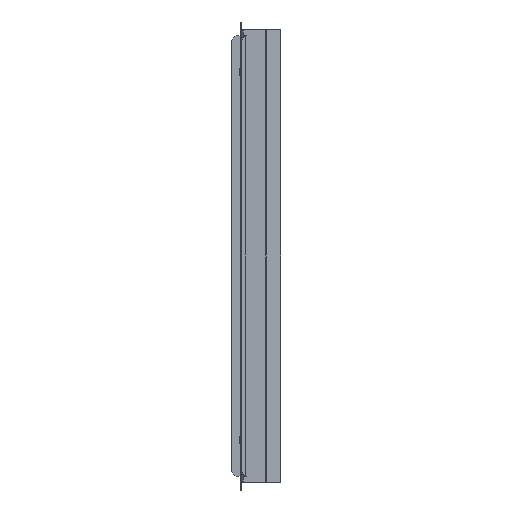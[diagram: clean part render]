
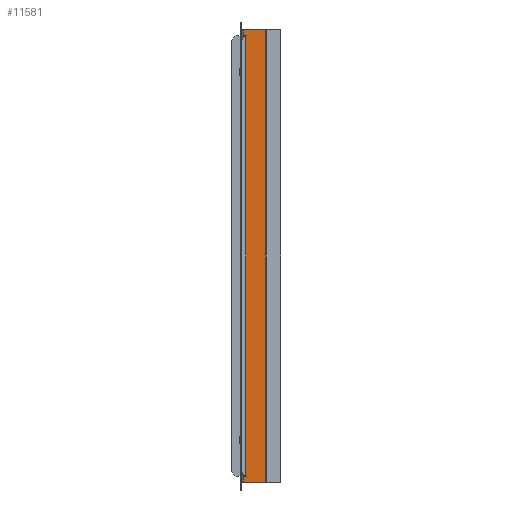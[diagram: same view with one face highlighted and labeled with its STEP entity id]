
A CAD part, front view. The second image highlights one B-rep face of the part: STEP entity #11581.
In plain terms, the highlighted planar face has unit normal (0, -1, 0).
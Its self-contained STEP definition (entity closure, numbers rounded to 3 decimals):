
#60 = ORIENTED_EDGE ( 'NONE', *, *, #2567, .F. ) ;
#435 = LINE ( 'NONE', #14691, #4392 ) ;
#1286 = DIRECTION ( 'NONE',  ( 0., 0., -1. ) ) ;
#1341 = VECTOR ( 'NONE', #1286, 1000. ) ;
#2353 = CARTESIAN_POINT ( 'NONE',  ( 0., 67.05, 322.5 ) ) ;
#2446 = VECTOR ( 'NONE', #4148, 1000. ) ;
#2567 = EDGE_CURVE ( 'NONE', #12909, #14474, #12189, .T. ) ;
#4148 = DIRECTION ( 'NONE',  ( -1., 0., 0. ) ) ;
#4307 = PLANE ( 'NONE',  #14659 ) ;
#4392 = VECTOR ( 'NONE', #12736, 1000. ) ;
#5115 = CARTESIAN_POINT ( 'NONE',  ( 33.964, 67.05, 322.5 ) ) ;
#5779 = CARTESIAN_POINT ( 'NONE',  ( 0., 67.05, -322.5 ) ) ;
#6130 = ORIENTED_EDGE ( 'NONE', *, *, #19487, .T. ) ;
#7148 = LINE ( 'NONE', #5115, #1341 ) ;
#7719 = VECTOR ( 'NONE', #24185, 1000. ) ;
#8012 = FACE_OUTER_BOUND ( 'NONE', #8240, .T. ) ;
#8232 = CARTESIAN_POINT ( 'NONE',  ( 33.964, 67.05, 322.5 ) ) ;
#8240 = EDGE_LOOP ( 'NONE', ( #60, #9212, #22203, #6130 ) ) ;
#9212 = ORIENTED_EDGE ( 'NONE', *, *, #23816, .F. ) ;
#11581 = ADVANCED_FACE ( 'NONE', ( #8012 ), #4307, .T. ) ;
#12137 = DIRECTION ( 'NONE',  ( 0., 0., -1. ) ) ;
#12189 = LINE ( 'NONE', #5779, #2446 ) ;
#12736 = DIRECTION ( 'NONE',  ( 0., 0., -1. ) ) ;
#12909 = VERTEX_POINT ( 'NONE', #20537 ) ;
#13499 = CARTESIAN_POINT ( 'NONE',  ( 1., 67.05, 322.5 ) ) ;
#14474 = VERTEX_POINT ( 'NONE', #23243 ) ;
#14659 = AXIS2_PLACEMENT_3D ( 'NONE', #2353, #23689, #12137 ) ;
#14691 = CARTESIAN_POINT ( 'NONE',  ( 1., 67.05, 322.5 ) ) ;
#19112 = VERTEX_POINT ( 'NONE', #13499 ) ;
#19487 = EDGE_CURVE ( 'NONE', #19112, #14474, #435, .T. ) ;
#19965 = EDGE_CURVE ( 'NONE', #21529, #19112, #23134, .T. ) ;
#20537 = CARTESIAN_POINT ( 'NONE',  ( 33.964, 67.05, -322.5 ) ) ;
#21529 = VERTEX_POINT ( 'NONE', #8232 ) ;
#22203 = ORIENTED_EDGE ( 'NONE', *, *, #19965, .T. ) ;
#22261 = CARTESIAN_POINT ( 'NONE',  ( 0., 67.05, 322.5 ) ) ;
#23134 = LINE ( 'NONE', #22261, #7719 ) ;
#23243 = CARTESIAN_POINT ( 'NONE',  ( 1., 67.05, -322.5 ) ) ;
#23689 = DIRECTION ( 'NONE',  ( 0., -1., 0. ) ) ;
#23816 = EDGE_CURVE ( 'NONE', #21529, #12909, #7148, .T. ) ;
#24185 = DIRECTION ( 'NONE',  ( -1., 0., 0. ) ) ;
